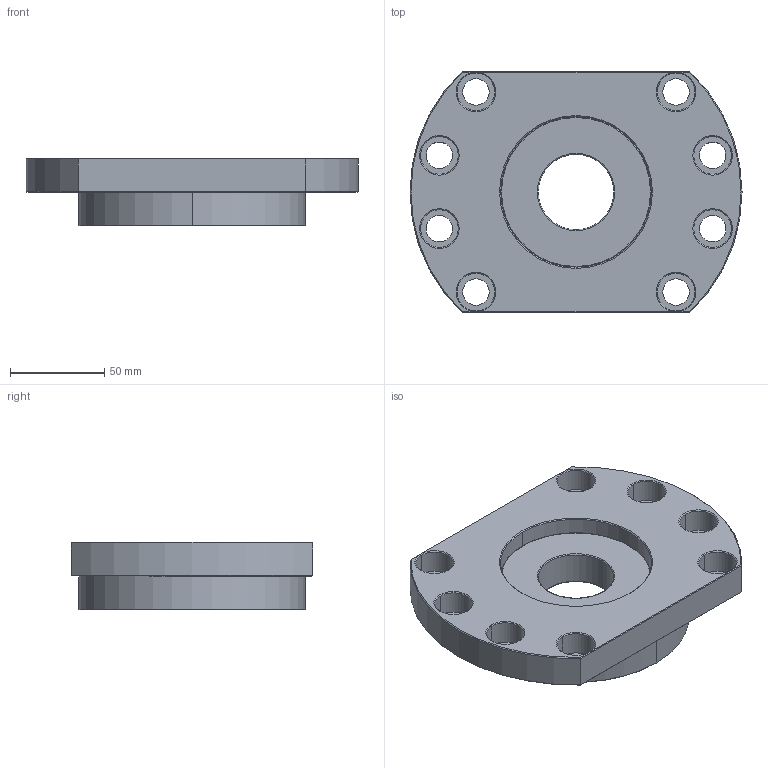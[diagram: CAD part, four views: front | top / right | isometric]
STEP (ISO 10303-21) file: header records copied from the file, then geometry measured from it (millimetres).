
FILE_DESCRIPTION (( 'STEP AP203' ), '1' );
FILE_NAME ('FSGF-40_203.STEP', '2013-02-28T00:11:41', ( '' ), ( '' ), 'SwSTEP 2.0', 'SolidWorks 2012', '' );
FILE_SCHEMA (( 'CONFIG_CONTROL_DESIGN' ));
Length unit declared in the file: millimetre
Products named in the file (1): FSGF-40_203
Bounding box: 176 x 128 x 36 mm (x, y, z)
Volume: 417485.1 mm3; surface area: 66713.4 mm2
Topology: 1 solids, 1 shells, 95 faces, 238 edges, 152 vertices
Faces by surface type: cylinder 42, cone 26, plane 19, torus 8
Entity records: 3025 total; most frequent: DIRECTION 566, CARTESIAN_POINT 522, ORIENTED_EDGE 476, AXIS2_PLACEMENT_3D 244, EDGE_CURVE 238, VERTEX_POINT 152, CIRCLE 148, EDGE_LOOP 120
